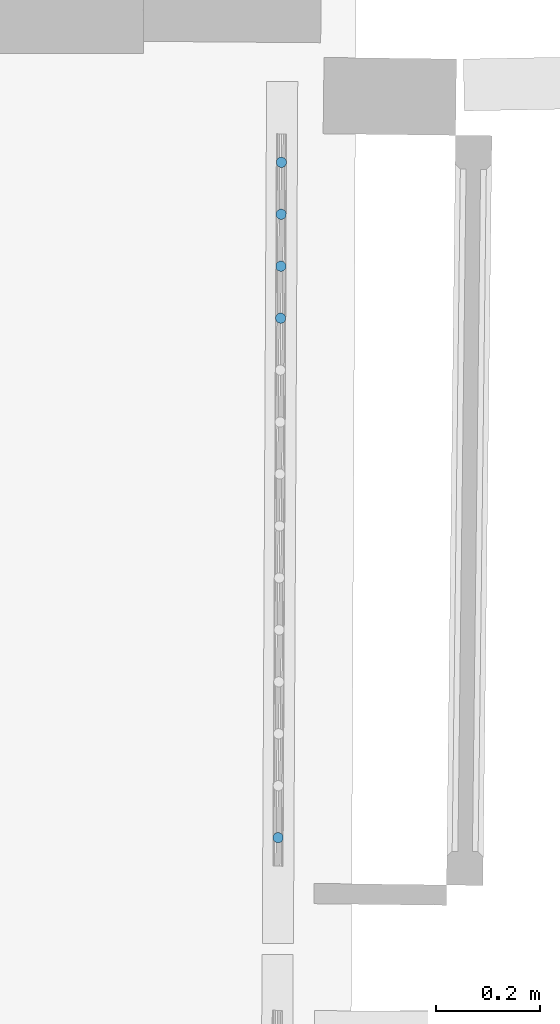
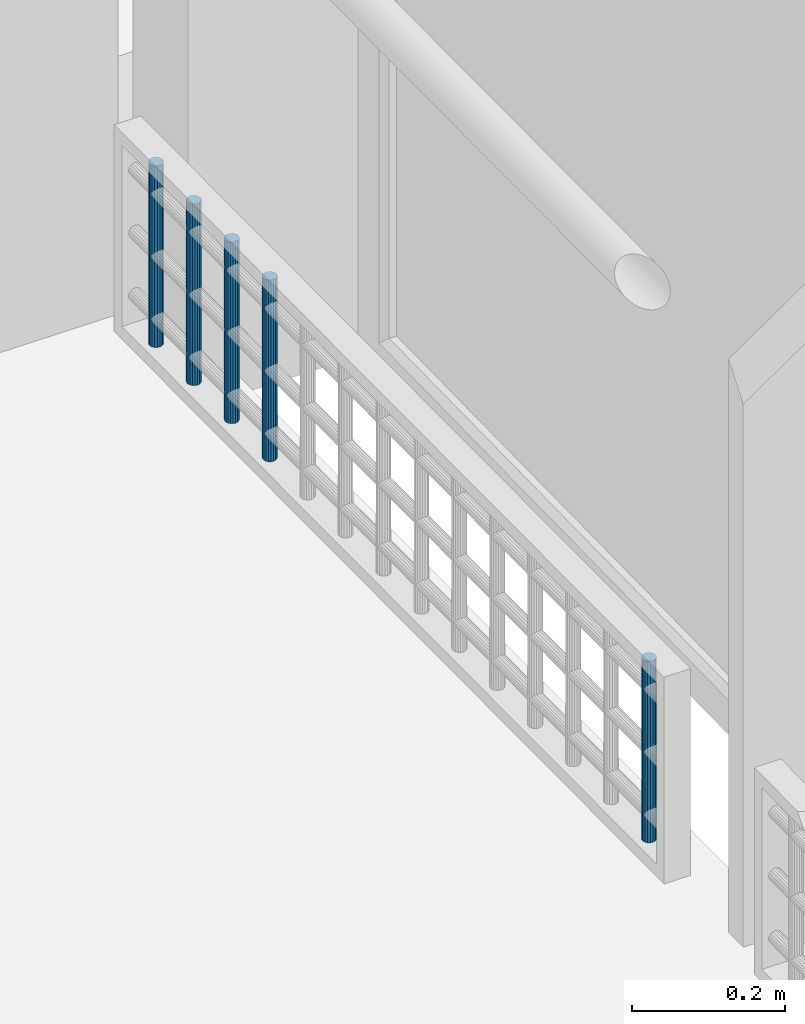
# One storey, part 30 of 66: 5 members, 1 element without a shape of its own.
"""IFC2X3 building model written with IfcOpenShell, lengths in centimetres."""

from ifc_helpers import new_model, entity, si_unit, converted_unit, direction, frame, origin, origin_with_axes, place, context, subcontext, project, spatial, faceted_brep, material, type_object, element, aggregate, save


model = new_model("IFC2X3")

# Units and contexts
model_context = context("Model", 3, precision=0.0001, world=origin(), true_north=direction((0.225632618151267, 0.974212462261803, 0.0)))
body_context = subcontext(model_context, "Body", "Model", "MODEL_VIEW")
ifc_project = project(units=[si_unit("LENGTHUNIT", "METRE", prefix="CENTI"), si_unit("AREAUNIT", "SQUARE_METRE", prefix="CENTI"), si_unit("VOLUMEUNIT", "CUBIC_METRE", prefix="CENTI"), converted_unit("PLANEANGLEUNIT", "DEGREE", entity("IfcRatioMeasure", 0.0174532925), si_unit("PLANEANGLEUNIT", "RADIAN"), dimensions=[0, 0, 0, 0, 0, 0, 0])], contexts=[model_context])

# Site, building, storey
site_placement = place(None, origin_with_axes())
site = spatial("IfcSite", under=ifc_project, at=site_placement, Name="Default Site", CompositionType="ELEMENT")
building_placement = place(site_placement, origin_with_axes())
building = spatial("IfcBuilding", under=site, at=building_placement, Name="Default Building", CompositionType="ELEMENT")
storey_placement = place(building_placement, frame((0.0, 0.0, 477.795358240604), z_axis=(0.0, 0.0, 1.0), x_axis=(1.0, 0.0, 0.0)))
storey = spatial("IfcBuildingStorey", under=building, at=storey_placement, Name="Niveau 1", CompositionType="ELEMENT", Elevation=477.795358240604)

# Assembly, members
building_element_proxy_type = type_object("IfcBuildingElementProxyType", Name="Type Object", PredefinedType="NOTDEFINED")
assembly_placement = place(storey_placement, frame((1065.11691205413, 138.297750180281, 9.99999999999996), z_axis=(0.0, 0.0, 1.0), x_axis=(-0.00486371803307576, -0.999988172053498, 0.0)))
assembly = element("IfcElementAssembly", 1, at=assembly_placement, inside=storey, type_object=building_element_proxy_type, Name="Panneau 1702029", ObjectType="Precast panel", PredefinedType="USERDEFINED")
ifc_material = material(Name="Aluminium satiné")
member_1_placement = place(assembly_placement, frame((8.43969285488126, 0.342020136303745, 31.0000002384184), z_axis=(0.0, 0.0, 1.0), x_axis=(0.50000056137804, -0.866025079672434, 0.0)))
member_1 = element("IfcMember", 2, at=member_1_placement, material=ifc_material, Name="4294967057", context=body_context, shape_type="Brep", body=[
    faceted_brep([(-1.02695629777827e-13, 1.70696790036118e-13, -1.11022302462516e-14), (-0.34729650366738, 1.06858966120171e-13, -1.11022302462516e-14), (-0.67364846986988, -0.118782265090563, -1.11022302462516e-14), (-0.93969307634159, -0.34201987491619, -1.11022302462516e-14), (-1.11334134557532, -0.642787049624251, -1.11022302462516e-14), (-1.17364892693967, -0.984807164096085, -1.11022302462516e-14), (-1.11334184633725, -1.32682746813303, -1.11022302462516e-14), (-0.939693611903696, -1.62759464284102, -1.11022302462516e-14), (-0.673649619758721, -1.85083312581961, -1.11022302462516e-14), (-0.347297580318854, -1.96961516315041, -1.11022302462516e-14), (-1.44918102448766e-06, -1.96961580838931, -1.11022302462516e-14), (0.326350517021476, -1.85083354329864, -1.11022302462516e-14), (0.592395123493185, -1.62759593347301, -1.11022302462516e-14), (0.76604339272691, -1.32682875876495, -1.11022302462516e-14), (0.82635097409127, -0.984808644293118, -1.11022302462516e-14), (0.766043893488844, -0.64278834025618, -1.11022302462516e-14), (0.59239603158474, -0.342020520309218, -1.11022302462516e-14), (0.326351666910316, -0.118782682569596, -1.11022302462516e-14), (0.326351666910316, -0.118782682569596, -29.0000002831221), (0.59239603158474, -0.342020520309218, -29.0000002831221), (0.766043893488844, -0.64278834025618, -29.0000002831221), (0.82635097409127, -0.984808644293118, -29.0000002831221), (0.76604339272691, -1.32682875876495, -29.0000002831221), (0.592395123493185, -1.62759593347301, -29.0000002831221), (0.326350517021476, -1.85083354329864, -29.0000002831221), (-1.44918102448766e-06, -1.96961580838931, -29.0000002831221), (-0.347297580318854, -1.96961516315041, -29.0000002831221), (-0.673649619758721, -1.85083312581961, -29.0000002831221), (-0.939693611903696, -1.62759464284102, -29.0000002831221), (-1.11334184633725, -1.32682746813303, -29.0000002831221), (-1.17364892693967, -0.984807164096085, -29.0000002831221), (-1.11334134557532, -0.642787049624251, -29.0000002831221), (-0.93969307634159, -0.34201987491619, -29.0000002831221), (-0.67364846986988, -0.118782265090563, -29.0000002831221), (-0.34729650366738, 1.06858966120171e-13, -29.0000002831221), (-1.02695629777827e-13, 1.70696790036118e-13, -29.0000002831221), (0.592395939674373, -0.342020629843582, -1.1102230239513e-14), (0.592395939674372, -0.342020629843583, -29.0000002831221), (0.326351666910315, -0.118782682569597, -29.0000002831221), (0.766044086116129, -0.642788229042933, -1.11022302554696e-14), (0.766044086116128, -0.642788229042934, -29.0000002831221), (0.592396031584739, -0.342020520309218, -29.0000002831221), (0.826351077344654, -0.984808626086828, -1.11022302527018e-14), (0.826351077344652, -0.984808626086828, -29.0000002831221), (0.766043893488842, -0.64278834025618, -29.0000002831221), (0.766043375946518, -1.32682875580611, -1.11022302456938e-14), (0.766043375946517, -1.32682875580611, -29.0000002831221), (0.826350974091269, -0.984808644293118, -29.0000002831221), (0.326350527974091, -1.85083355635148, -1.11022302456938e-14), (0.326350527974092, -1.85083355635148, -29.0000002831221), (0.592395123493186, -1.62759593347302, -29.0000002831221), (-1.48504047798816e-06, -1.96961570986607, -1.11022302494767e-14), (-1.48504047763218e-06, -1.96961570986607, -29.0000002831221), (-0.347297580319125, -1.96961558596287, -1.11022302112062e-14), (-0.347297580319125, -1.96961558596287, -29.0000002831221), (-0.673649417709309, -1.85083257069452, -1.11022303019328e-14), (-0.67364941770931, -1.85083257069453, -29.0000002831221), (-0.347297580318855, -1.96961516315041, -29.0000002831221), (-0.939693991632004, -1.627595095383, -1.11022301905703e-14), (-0.939693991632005, -1.627595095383, -29.0000002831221), (-0.673649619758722, -1.85083312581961, -29.0000002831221), (-1.11334148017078, -1.32682725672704, -1.11022302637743e-14), (-1.11334148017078, -1.32682725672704, -29.0000002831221), (-0.939693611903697, -1.62759464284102, -29.0000002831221), (-1.17364903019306, -0.984807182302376, -1.11022302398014e-14), (-1.17364903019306, -0.984807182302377, -29.0000002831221), (-1.11334132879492, -0.642787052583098, -1.11022302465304e-14), (-1.11334132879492, -0.642787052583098, -29.0000002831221), (-1.17364892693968, -0.984807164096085, -29.0000002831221), (-0.673648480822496, -0.118782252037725, -1.11022302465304e-14), (-0.673648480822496, -0.118782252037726, -29.0000002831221), (-0.939693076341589, -0.34201987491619, -29.0000002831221), (-0.347296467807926, -9.85231389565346e-08, -1.11022302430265e-14), (-0.347296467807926, -9.85231397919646e-08, -29.0000002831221), (-2.4514924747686e-13, -2.2242657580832e-07, -1.11022302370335e-14), (-2.45149248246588e-13, -2.22426577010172e-07, -29.0000002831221), (-0.34729650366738, 1.05657114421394e-13, -29.0000002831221), (0.32635171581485, -0.118782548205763, -1.11022302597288e-14), (0.326351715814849, -0.118782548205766, -29.0000002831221), (-1.03630506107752e-13, 1.68128243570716e-13, -29.0000002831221)], [[[0, 1, 2, 3, 4, 5, 6, 7, 8, 9, 10, 11, 12, 13, 14, 15, 16, 17]], [[18, 19, 20, 21, 22, 23, 24, 25, 26, 27, 28, 29, 30, 31, 32, 33, 34, 35]], [[17, 36, 37, 38]], [[16, 39, 40, 41]], [[15, 42, 43, 44]], [[14, 45, 46, 47]], [[13, 12, 23, 22]], [[12, 48, 49, 50]], [[11, 51, 52, 24]], [[10, 53, 54, 25]], [[9, 55, 56, 57]], [[8, 58, 59, 60]], [[7, 61, 62, 63]], [[6, 64, 65, 29]], [[5, 66, 67, 68]], [[4, 3, 32, 31]], [[3, 69, 70, 71]], [[2, 72, 73, 33]], [[1, 74, 75, 76]], [[0, 77, 78, 79]]]),
])
member_2_placement = place(assembly_placement, frame((18.4396922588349, 0.342020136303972, 31.0000002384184), z_axis=(0.0, 0.0, 1.0), x_axis=(0.49999895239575, -0.86602600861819, 0.0)))
member_2 = element("IfcMember", 3, at=member_2_placement, material=ifc_material, Name="4294967056", context=body_context, shape_type="Brep", body=[
    faceted_brep([(-1.17961196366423e-13, 1.02695629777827e-13, -9.43689570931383e-14), (-0.347296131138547, 1.58206781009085e-13, -9.43689570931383e-14), (-0.673647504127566, -0.118782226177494, -9.43689570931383e-14), (-0.939691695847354, -0.342020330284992, -9.43689570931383e-14), (-1.11333977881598, -0.642788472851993, -9.43689570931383e-14), (-1.17364672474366, -0.984808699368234, -9.43689570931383e-14), (-1.11333938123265, -1.32682953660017, -9.43689570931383e-14), (-0.939690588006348, -1.62759638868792, -9.43689570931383e-14), (-0.673645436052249, -1.85083308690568, -9.43689570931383e-14), (-0.347293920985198, -1.96961580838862, -9.43689570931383e-14), (2.2101532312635e-06, -1.96961580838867, -9.43689570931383e-14), (0.326354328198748, -1.85083229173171, -9.43689570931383e-14), (0.592398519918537, -1.62759418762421, -9.43689570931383e-14), (0.766046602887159, -1.32682604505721, -9.43689570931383e-14), (0.826353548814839, -0.984805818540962, -9.43689570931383e-14), (0.766045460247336, -0.64278627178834, -9.43689570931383e-14), (0.592396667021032, -0.342019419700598, -9.43689570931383e-14), (0.326352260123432, -0.118781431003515, -9.43689570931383e-14), (0.326352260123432, -0.118781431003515, -29.0000002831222), (0.592396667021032, -0.342019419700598, -29.0000002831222), (0.766045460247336, -0.64278627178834, -29.0000002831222), (0.826353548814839, -0.984805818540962, -29.0000002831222), (0.766046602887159, -1.32682604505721, -29.0000002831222), (0.592398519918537, -1.62759418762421, -29.0000002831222), (0.326354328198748, -1.85083229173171, -29.0000002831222), (2.2101532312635e-06, -1.96961580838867, -29.0000002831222), (-0.347293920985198, -1.96961580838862, -29.0000002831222), (-0.673645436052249, -1.85083308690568, -29.0000002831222), (-0.939690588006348, -1.62759638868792, -29.0000002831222), (-1.11333938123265, -1.32682953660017, -29.0000002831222), (-1.17364672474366, -0.984808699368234, -29.0000002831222), (-1.11333977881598, -0.642788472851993, -29.0000002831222), (-0.939691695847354, -0.342020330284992, -29.0000002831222), (-0.673647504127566, -0.118782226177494, -29.0000002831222), (-0.347296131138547, 1.58206781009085e-13, -29.0000002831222), (-1.17961196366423e-13, 1.02695629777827e-13, -29.0000002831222), (0.592397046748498, -0.34201896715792, -9.43689571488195e-14), (0.592397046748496, -0.342018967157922, -29.0000002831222), (0.32635226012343, -0.118781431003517, -29.0000002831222), (0.766045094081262, -0.642786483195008, -9.43689570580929e-14), (0.76604509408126, -0.642786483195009, -29.0000002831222), (0.59239666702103, -0.342019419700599, -29.0000002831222), (0.826353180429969, -0.984805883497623, -9.43689570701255e-14), (0.826353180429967, -0.984805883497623, -29.0000002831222), (0.766045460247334, -0.64278627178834, -29.0000002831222), (0.766046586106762, -1.32682604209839, -9.43689570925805e-14), (0.766046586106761, -1.32682604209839, -29.0000002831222), (0.826353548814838, -0.984805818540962, -29.0000002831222), (0.326354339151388, -1.85083230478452, -9.43689570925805e-14), (0.326354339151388, -1.85083230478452, -29.0000002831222), (0.592398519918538, -1.62759418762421, -29.0000002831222), (2.01049479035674e-06, -1.96961525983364, -9.43689570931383e-14), (2.01049479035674e-06, -1.96961525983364, -29.0000002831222), (-0.347293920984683, -1.96961623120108, -9.43689570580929e-14), (-0.347293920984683, -1.96961623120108, -29.0000002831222), (-0.673645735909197, -1.85083391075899, -9.43689570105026e-14), (-0.673645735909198, -1.850833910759, -29.0000002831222), (-0.347293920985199, -1.96961580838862, -29.0000002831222), (-0.939690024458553, -1.62759571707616, -9.4368957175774e-14), (-0.939690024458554, -1.62759571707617, -29.0000002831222), (-0.673645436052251, -1.85083308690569, -29.0000002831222), (-1.11333901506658, -1.32682932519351, -9.43689570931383e-14), (-1.11333901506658, -1.32682932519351, -29.0000002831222), (-1.17364729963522, -0.984808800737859, -9.43689570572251e-14), (-1.17364729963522, -0.984808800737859, -29.0000002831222), (-1.11333976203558, -0.642788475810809, -9.43689570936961e-14), (-1.11333976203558, -0.642788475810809, -29.0000002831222), (-1.17364672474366, -0.984808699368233, -29.0000002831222), (-0.673647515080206, -0.118782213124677, -9.43689570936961e-14), (-0.673647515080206, -0.118782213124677, -29.0000002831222), (-0.939691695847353, -0.342020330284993, -29.0000002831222), (-0.347296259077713, 3.51508830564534e-07, -9.43689571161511e-14), (-0.347296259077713, 3.51508828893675e-07, -29.0000002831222), (-0.673647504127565, -0.118782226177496, -29.0000002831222), (-6.32710243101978e-13, 4.22812562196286e-07, -9.43689571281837e-14), (-6.32710240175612e-13, 4.22812559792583e-07, -29.0000002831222), (-0.347296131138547, 1.55803077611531e-13, -29.0000002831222), (0.326352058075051, -0.118781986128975, -9.43689570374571e-14), (0.32635205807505, -0.118781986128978, -29.0000002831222), (-1.18896067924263e-13, 1.0012708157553e-13, -29.0000002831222)], [[[0, 1, 2, 3, 4, 5, 6, 7, 8, 9, 10, 11, 12, 13, 14, 15, 16, 17]], [[18, 19, 20, 21, 22, 23, 24, 25, 26, 27, 28, 29, 30, 31, 32, 33, 34, 35]], [[17, 36, 37, 38]], [[16, 39, 40, 41]], [[15, 42, 43, 44]], [[14, 45, 46, 47]], [[13, 12, 23, 22]], [[12, 48, 49, 50]], [[11, 51, 52, 24]], [[10, 53, 54, 25]], [[9, 55, 56, 57]], [[8, 58, 59, 60]], [[7, 61, 62, 28]], [[6, 63, 64, 29]], [[5, 65, 66, 67]], [[4, 3, 32, 31]], [[3, 68, 69, 70]], [[2, 71, 72, 73]], [[1, 74, 75, 76]], [[0, 77, 78, 79]]]),
])
member_3_placement = place(assembly_placement, frame((28.4396916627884, 0.342020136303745, 31.0000002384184), z_axis=(0.0, 0.0, 1.0), x_axis=(0.499995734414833, -0.866027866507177, 0.0)))
member_3 = element("IfcMember", 4, at=member_3_placement, material=ifc_material, Name="4294967055", context=body_context, shape_type="Brep", body=[
    faceted_brep([(-2.22044604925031e-14, 3.88578058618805e-14, -5.55111512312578e-15), (-0.347295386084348, 5.55111512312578e-15, -5.55111512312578e-15), (-0.673647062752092, -0.118784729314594, -5.55111512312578e-15), (-0.939691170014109, -0.342025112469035, -5.55111512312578e-15), (-1.11333739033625, -0.642792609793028, -5.55111512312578e-15), (-1.17364232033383, -0.984811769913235, -5.55111512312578e-15), (-1.113333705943, -1.32683238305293, -5.55111512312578e-15), (-0.939684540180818, -1.62759988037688, -5.55111512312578e-15), (-0.673639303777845, -1.85083688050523, -5.55111512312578e-15), (-0.347286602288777, -1.96961709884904, -5.55111512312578e-15), (1.02738989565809e-05, -1.96961451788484, -5.55111512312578e-15), (0.3263619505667, -1.85082978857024, -5.55111512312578e-15), (0.59240456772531, -1.62759198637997, -5.55111512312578e-15), (0.766050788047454, -1.32682448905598, -5.55111512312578e-15), (0.826357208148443, -0.9848027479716, -5.55111512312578e-15), (0.766048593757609, -0.64278213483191, -5.55111512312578e-15), (0.59239793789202, -0.342017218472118, -5.55111512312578e-15), (0.326352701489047, -0.118780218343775, -5.55111512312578e-15), (0.326352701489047, -0.118780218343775, -29.0000002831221), (0.59239793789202, -0.342017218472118, -29.0000002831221), (0.766048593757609, -0.64278213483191, -29.0000002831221), (0.826357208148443, -0.9848027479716, -29.0000002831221), (0.766050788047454, -1.32682448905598, -29.0000002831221), (0.59240456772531, -1.62759198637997, -29.0000002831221), (0.3263619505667, -1.85082978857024, -29.0000002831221), (1.02738989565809e-05, -1.96961451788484, -29.0000002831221), (-0.347286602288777, -1.96961709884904, -29.0000002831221), (-0.673639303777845, -1.85083688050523, -29.0000002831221), (-0.939684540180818, -1.62759988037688, -29.0000002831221), (-1.113333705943, -1.32683238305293, -29.0000002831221), (-1.17364232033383, -0.984811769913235, -29.0000002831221), (-1.11333739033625, -0.642792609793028, -29.0000002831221), (-0.939691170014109, -0.342025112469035, -29.0000002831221), (-0.673647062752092, -0.118784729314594, -29.0000002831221), (-0.347295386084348, 5.55111512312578e-15, -29.0000002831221), (-2.22044604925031e-14, 3.88578058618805e-14, -29.0000002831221), (0.592398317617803, -0.342016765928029, -5.55111512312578e-15), (0.592398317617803, -0.342016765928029, -29.0000002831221), (0.76604711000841, -0.642782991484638, -5.55111512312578e-15), (0.76604711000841, -0.642782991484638, -29.0000002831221), (0.826357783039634, -0.984802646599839, -5.55111512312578e-15), (0.826357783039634, -0.984802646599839, -29.0000002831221), (0.766051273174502, -1.3268245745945, -5.55111512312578e-15), (0.766051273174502, -1.3268245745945, -29.0000002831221), (0.592404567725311, -1.62759198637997, -5.55111512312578e-15), (0.592404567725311, -1.62759198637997, -29.0000002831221), (0.32636228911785, -1.85083019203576, -5.55111512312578e-15), (0.32636228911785, -1.85083019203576, -29.0000002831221), (1.00742384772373e-05, -1.96961396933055, -5.55111512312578e-15), (1.00742384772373e-05, -1.96961396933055, -29.0000002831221), (-0.347286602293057, -1.96961623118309, -5.55111512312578e-15), (-0.347286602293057, -1.96961623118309, -29.0000002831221), (-0.673639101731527, -1.85083632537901, -5.55111512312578e-15), (-0.673639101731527, -1.85083632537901, -29.0000002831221), (-0.939684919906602, -1.62760033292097, -5.55111512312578e-15), (-0.939684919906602, -1.62760033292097, -29.0000002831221), (-1.11333445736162, -1.3268328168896, -5.55111512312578e-15), (-1.11333445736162, -1.3268328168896, -29.0000002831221), (-1.17364289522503, -0.984811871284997, -5.55111512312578e-15), (-1.17364289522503, -0.984811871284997, -29.0000002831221), (-1.11333687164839, -0.642792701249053, -5.55111512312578e-15), (-1.11333687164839, -0.642792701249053, -29.0000002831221), (-0.93969117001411, -0.342025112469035, -5.55111512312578e-15), (-0.93969117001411, -0.342025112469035, -29.0000002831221), (-0.673646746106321, -0.118785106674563, -5.55111512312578e-15), (-0.673646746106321, -0.118785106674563, -29.0000002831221), (-0.347295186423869, -5.48554285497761e-07, -5.55111512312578e-15), (-0.347295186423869, -5.48554285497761e-07, -29.0000002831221), (-8.47427657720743e-12, 1.71329090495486e-06, -5.55111512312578e-15), (-8.47427657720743e-12, 1.71329090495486e-06, -29.0000002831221), (0.326352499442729, -0.118780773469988, -5.55111512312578e-15), (0.326352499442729, -0.118780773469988, -29.0000002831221)], [[[0, 1, 2, 3, 4, 5, 6, 7, 8, 9, 10, 11, 12, 13, 14, 15, 16, 17]], [[18, 19, 20, 21, 22, 23, 24, 25, 26, 27, 28, 29, 30, 31, 32, 33, 34, 35]], [[17, 36, 37, 18]], [[16, 38, 39, 19]], [[15, 40, 41, 20]], [[14, 42, 43, 21]], [[13, 44, 45, 22]], [[12, 46, 47, 23]], [[11, 48, 49, 24]], [[10, 50, 51, 25]], [[9, 52, 53, 26]], [[8, 54, 55, 27]], [[7, 56, 57, 28]], [[6, 58, 59, 29]], [[5, 60, 61, 30]], [[4, 62, 63, 31]], [[3, 64, 65, 32]], [[2, 66, 67, 33]], [[1, 68, 69, 34]], [[0, 70, 71, 35]]]),
])
member_4_placement = place(assembly_placement, frame((38.4396940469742, 0.342020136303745, 31.0000002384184), z_axis=(0.0, 0.0, 1.0), x_axis=(0.50000217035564, -0.8660241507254, 0.0)))
member_4 = element("IfcMember", 5, at=member_4_placement, material=ifc_material, Name="4294967054", context=body_context, shape_type="Brep", body=[
    faceted_brep([(-2.22044604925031e-13, 1.22124532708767e-13, -5.55111512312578e-15), (-0.347296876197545, 1.33226762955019e-13, -5.55111512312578e-15), (-0.673649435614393, -0.118782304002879, -5.55111512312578e-15), (-0.939693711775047, -0.342018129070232, -5.55111512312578e-15), (-1.11334365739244, -0.642786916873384, -5.55111512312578e-15), (-1.17365112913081, -0.984805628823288, -5.55111512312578e-15), (-1.11334505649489, -1.32682669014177, -5.55111512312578e-15), (-0.939698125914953, -1.62759547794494, -5.55111512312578e-15), (-0.67365305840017, -1.85083187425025, -5.55111512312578e-15), (-0.347302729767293, -1.9696170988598, -5.55111512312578e-15), (-5.85356997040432e-06, -1.96961709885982, -5.55111512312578e-15), (0.326346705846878, -1.85083479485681, -5.55111512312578e-15), (0.592390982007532, -1.62759896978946, -5.55111512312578e-15), (0.766040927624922, -1.3268301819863, -5.55111512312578e-15), (0.826348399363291, -0.984811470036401, -5.55111512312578e-15), (0.766042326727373, -0.642790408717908, -5.55111512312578e-15), (0.592395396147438, -0.342021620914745, -5.55111512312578e-15), (0.326350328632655, -0.118785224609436, -5.55111512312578e-15), (0.326350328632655, -0.118785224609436, -29.0000002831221), (0.592395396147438, -0.342021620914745, -29.0000002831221), (0.766042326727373, -0.642790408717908, -29.0000002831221), (0.826348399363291, -0.984811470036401, -29.0000002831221), (0.766040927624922, -1.3268301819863, -29.0000002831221), (0.592390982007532, -1.62759896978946, -29.0000002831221), (0.326346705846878, -1.85083479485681, -29.0000002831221), (-5.85356997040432e-06, -1.96961709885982, -29.0000002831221), (-0.347302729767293, -1.9696170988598, -29.0000002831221), (-0.67365305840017, -1.85083187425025, -29.0000002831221), (-0.939698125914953, -1.62759547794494, -29.0000002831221), (-1.11334505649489, -1.32682669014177, -29.0000002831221), (-1.17365112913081, -0.984805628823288, -29.0000002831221), (-1.11334365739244, -0.642786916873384, -29.0000002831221), (-0.939693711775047, -0.342018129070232, -29.0000002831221), (-0.673649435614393, -0.118782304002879, -29.0000002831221), (-0.347296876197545, 1.33226762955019e-13, -29.0000002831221), (-2.22044604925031e-13, 1.22124532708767e-13, -29.0000002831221), (0.592393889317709, -0.342023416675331, -5.55111512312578e-15), (0.592393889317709, -0.342023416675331, -29.0000002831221), (0.766043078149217, -0.642789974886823, -5.55111512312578e-15), (0.766043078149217, -0.642789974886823, -29.0000002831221), (0.826348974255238, -0.984811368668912, -5.55111512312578e-15), (0.826348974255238, -0.984811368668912, -29.0000002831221), (0.766040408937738, -1.32683009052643, -5.55111512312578e-15), (0.766040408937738, -1.32683009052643, -29.0000002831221), (0.592390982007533, -1.62759896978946, -5.55111512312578e-15), (0.592390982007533, -1.62759896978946, -29.0000002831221), (0.326347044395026, -1.85083519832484, -5.55111512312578e-15), (0.326347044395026, -1.85083519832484, -29.0000002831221), (-6.05322637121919e-06, -1.96961655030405, -5.55111512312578e-15), (-6.05322637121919e-06, -1.96961655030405, -29.0000002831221), (-0.347302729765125, -1.96961623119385, -5.55111512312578e-15), (-0.347302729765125, -1.96961623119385, -29.0000002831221), (-0.673653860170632, -1.85083407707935, -5.55111512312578e-15), (-0.673653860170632, -1.85083407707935, -29.0000002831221), (-0.939696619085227, -1.62759368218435, -5.55111512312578e-15), (-0.939696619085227, -1.62759368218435, -29.0000002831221), (-1.11334580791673, -1.32682712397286, -5.55111512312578e-15), (-1.11334580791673, -1.32682712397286, -29.0000002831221), (-1.17365170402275, -0.984805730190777, -5.55111512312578e-15), (-1.17365170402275, -0.984805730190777, -29.0000002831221), (-1.11334313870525, -0.642787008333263, -5.55111512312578e-15), (-1.11334313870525, -0.642787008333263, -29.0000002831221), (-0.939693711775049, -0.342018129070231, -5.55111512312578e-15), (-0.939693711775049, -0.342018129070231, -29.0000002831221), (-0.673649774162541, -0.118781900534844, -5.55111512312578e-15), (-0.673649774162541, -0.118781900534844, -29.0000002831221), (-0.347296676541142, -5.48555641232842e-07, -5.55111512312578e-15), (-0.347296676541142, -5.48555641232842e-07, -29.0000002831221), (-2.38976988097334e-12, -8.67665831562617e-07, -5.55111512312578e-15), (-2.38976988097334e-12, -8.67665831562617e-07, -29.0000002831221), (0.326351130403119, -0.118783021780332, -5.55111512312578e-15), (0.326351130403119, -0.118783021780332, -29.0000002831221)], [[[0, 1, 2, 3, 4, 5, 6, 7, 8, 9, 10, 11, 12, 13, 14, 15, 16, 17]], [[18, 19, 20, 21, 22, 23, 24, 25, 26, 27, 28, 29, 30, 31, 32, 33, 34, 35]], [[17, 36, 37, 18]], [[16, 38, 39, 19]], [[15, 40, 41, 20]], [[14, 42, 43, 21]], [[13, 44, 45, 22]], [[12, 46, 47, 23]], [[11, 48, 49, 24]], [[10, 50, 51, 25]], [[9, 52, 53, 26]], [[8, 54, 55, 27]], [[7, 56, 57, 28]], [[6, 58, 59, 29]], [[5, 60, 61, 30]], [[4, 62, 63, 31]], [[3, 64, 65, 32]], [[2, 66, 67, 33]], [[1, 68, 69, 34]], [[0, 70, 71, 35]]]),
])
member_5_placement = place(assembly_placement, frame((138.439691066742, 0.342020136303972, 31.0000002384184), z_axis=(0.0, 0.0, 1.0), x_axis=(0.500008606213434, -0.866020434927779, 0.0)))
member_5 = element("IfcMember", 6, at=member_5_placement, material=ifc_material, Name="4294967044", context=body_context, shape_type="Brep", body=[
    faceted_brep([(-2.22044604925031e-13, 6.66133814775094e-14, 8.32667268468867e-14), (-0.347298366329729, 6.66133814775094e-14, 8.32667268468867e-14), (-0.673648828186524, -0.118774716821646, 8.32667268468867e-14), (-0.939693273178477, -0.342005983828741, 8.32667268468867e-14), (-1.11334843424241, -0.642778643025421, 8.32667268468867e-14), (-1.17365695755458, -0.984794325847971, 8.32667268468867e-14), (-1.1133504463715, -1.32681067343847, 8.32667268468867e-14), (-0.939707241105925, -1.62758333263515, 8.32667268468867e-14), (-0.673665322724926, -1.85082428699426, 8.32667268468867e-14), (-0.347314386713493, -1.96960935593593, 8.32667268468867e-14), (-1.60203839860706e-05, -1.96960935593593, 8.32667268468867e-14), (0.326334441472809, -1.8508346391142, 8.32667268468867e-14), (0.592378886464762, -1.62760337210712, 8.32667268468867e-14), (0.766034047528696, -1.32683071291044, 8.32667268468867e-14), (0.826342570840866, -0.984815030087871, 8.32667268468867e-14), (0.766036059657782, -0.642798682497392, 8.32667268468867e-14), (0.59239285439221, -0.342026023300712, 8.32667268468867e-14), (0.32635093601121, -0.118785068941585, 8.32667268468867e-14), (0.32635093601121, -0.118785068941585, -29.000000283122), (0.59239285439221, -0.342026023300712, -29.000000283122), (0.766036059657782, -0.642798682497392, -29.000000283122), (0.826342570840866, -0.984815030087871, -29.000000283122), (0.766034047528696, -1.32683071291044, -29.000000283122), (0.592378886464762, -1.62760337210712, -29.000000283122), (0.326334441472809, -1.8508346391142, -29.000000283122), (-1.60203839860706e-05, -1.96960935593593, -29.000000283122), (-0.347314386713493, -1.96960935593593, -29.000000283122), (-0.673665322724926, -1.85082428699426, -29.000000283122), (-0.939707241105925, -1.62758333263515, -29.000000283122), (-1.1133504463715, -1.32681067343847, -29.000000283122), (-1.17365695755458, -0.984794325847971, -29.000000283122), (-1.11334843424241, -0.642778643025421, -29.000000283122), (-0.939693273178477, -0.342005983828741, -29.000000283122), (-0.673648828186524, -0.118774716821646, -29.000000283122), (-0.347298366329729, 6.66133814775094e-14, -29.000000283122), (-2.22044604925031e-13, 6.66133814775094e-14, -29.000000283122), (0.592393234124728, -0.342025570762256, 8.32667268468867e-14), (0.592393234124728, -0.342025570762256, -29.000000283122), (0.766039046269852, -0.642796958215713, 8.32667268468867e-14), (0.766039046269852, -0.642796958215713, -29.000000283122), (0.826339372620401, -0.984815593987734, 8.32667268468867e-14), (0.826339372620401, -0.984815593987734, -29.000000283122), (0.766032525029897, -1.32683044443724, 8.32667268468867e-14), (0.766032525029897, -1.32683044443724, -29.000000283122), (0.592378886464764, -1.62760337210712, 8.32667268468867e-14), (0.592378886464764, -1.62760337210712, -29.000000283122), (0.326335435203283, -1.85083582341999, 8.32667268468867e-14), (0.326335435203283, -1.85083582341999, -29.000000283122), (-1.49096860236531e-05, -1.96961240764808, 8.32667268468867e-14), (-1.49096860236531e-05, -1.96961240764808, -29.000000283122), (-0.347314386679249, -1.96960590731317, 8.32667268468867e-14), (-0.347314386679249, -1.96960590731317, -29.000000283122), (-0.67366512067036, -1.85082373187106, 8.32667268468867e-14), (-0.67366512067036, -1.85082373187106, -29.000000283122), (-0.939707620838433, -1.62758378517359, 8.32667268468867e-14), (-0.939707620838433, -1.62758378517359, -29.000000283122), (-1.11335343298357, -1.32681239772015, 8.32667268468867e-14), (-1.11335343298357, -1.32681239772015, -29.000000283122), (-1.17365375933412, -0.984793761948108, 8.32667268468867e-14), (-1.17365375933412, -0.984793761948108, -29.000000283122), (-1.11334691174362, -0.642778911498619, 8.32667268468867e-14), (-1.11334691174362, -0.642778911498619, -29.000000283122), (-0.939693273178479, -0.34200598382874, 8.32667268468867e-14), (-0.939693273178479, -0.34200598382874, -29.000000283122), (-0.673649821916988, -0.118773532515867, 8.32667268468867e-14), (-0.673649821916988, -0.118773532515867, -29.000000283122), (-0.347299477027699, 3.05171223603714e-06, 8.32667268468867e-14), (-0.347299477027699, 3.05171223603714e-06, -29.000000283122), (-3.44663719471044e-11, -3.44862269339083e-06, 8.32667268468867e-14), (-3.44663719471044e-11, -3.44862269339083e-06, -29.000000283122), (0.326350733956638, -0.118785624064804, 8.32667268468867e-14), (0.326350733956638, -0.118785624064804, -29.000000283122)], [[[0, 1, 2, 3, 4, 5, 6, 7, 8, 9, 10, 11, 12, 13, 14, 15, 16, 17]], [[18, 19, 20, 21, 22, 23, 24, 25, 26, 27, 28, 29, 30, 31, 32, 33, 34, 35]], [[17, 36, 37, 18]], [[16, 38, 39, 19]], [[15, 40, 41, 20]], [[14, 42, 43, 21]], [[13, 44, 45, 22]], [[12, 46, 47, 23]], [[11, 48, 49, 24]], [[10, 50, 51, 25]], [[9, 52, 53, 26]], [[8, 54, 55, 27]], [[7, 56, 57, 28]], [[6, 58, 59, 29]], [[5, 60, 61, 30]], [[4, 62, 63, 31]], [[3, 64, 65, 32]], [[2, 66, 67, 33]], [[1, 68, 69, 34]], [[0, 70, 71, 35]]]),
])
aggregate(assembly, [member_1, member_2, member_3, member_4, member_5])

save(model, "model.ifc")
